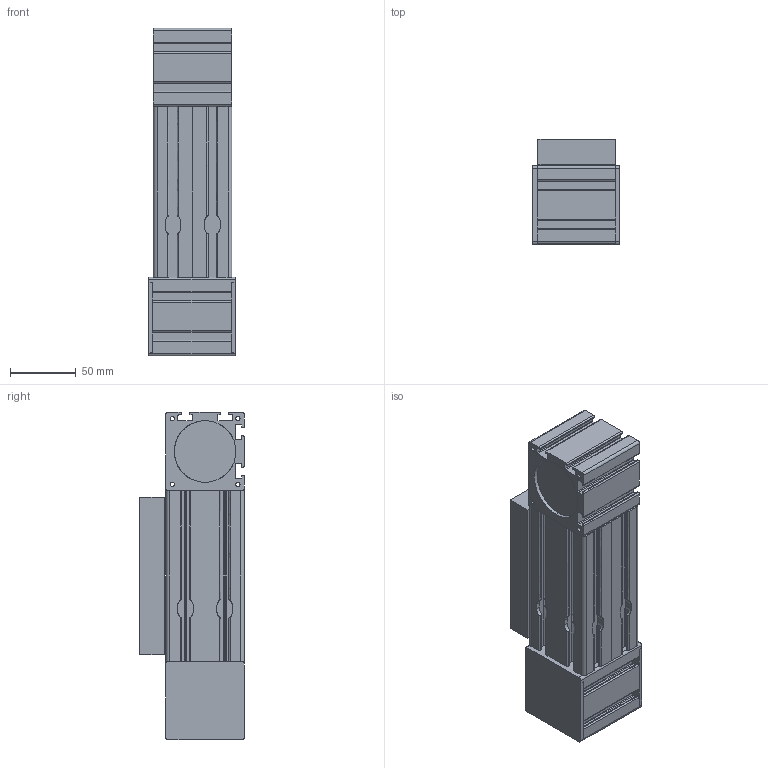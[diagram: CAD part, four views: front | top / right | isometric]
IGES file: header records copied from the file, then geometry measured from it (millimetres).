
Start section: SolidWorks IGES file using analytic representation for surfaces
Global section: file name: C:\Users\disegnatore3\Downloads\AW - motion-line-hpc-cad\ML60HPC-11.IGS; native system: SolidWorks 2019; preprocessor: SolidWorks 2019; author: disegnatore3; date: 230323.092413; units: millimetre
Bounding box: 66 x 80 x 250 mm (x, y, z)
Surface area: 135102.3 mm2 (no closed solid volume)
Topology: 0 solids, 0 shells, 497 faces, 5224 edges, 5216 vertices
Faces by surface type: revolution 286, bspline 211
